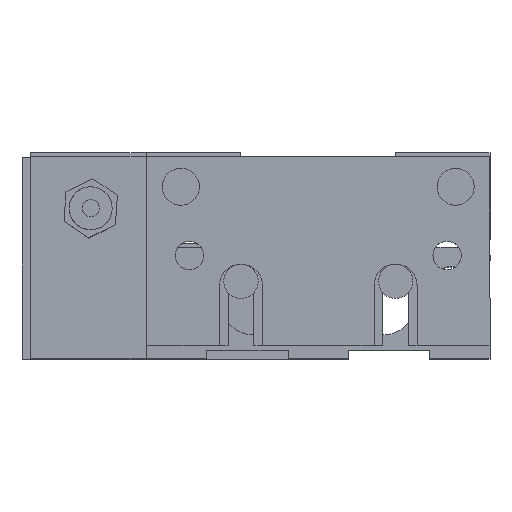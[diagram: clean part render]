
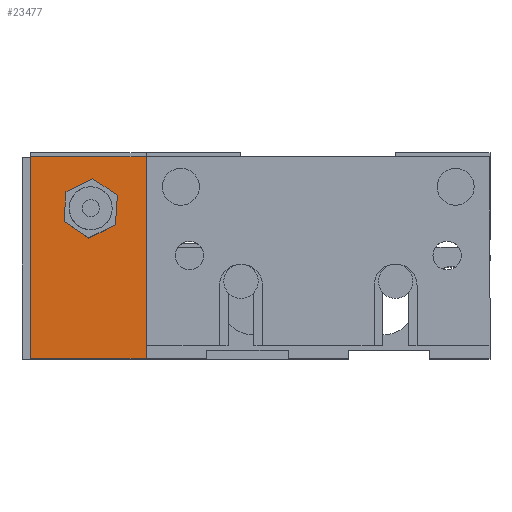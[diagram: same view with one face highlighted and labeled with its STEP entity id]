
A CAD part, top view. The second image highlights one B-rep face of the part: STEP entity #23477.
In plain terms, the highlighted planar face has unit normal (0, 0, 1).
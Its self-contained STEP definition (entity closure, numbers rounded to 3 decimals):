
#2975 = CARTESIAN_POINT ( 'NONE',  ( 0., 23.5, 7. ) ) ;
#16829 = LINE ( 'NONE', #16871, #17136 ) ;
#16871 = CARTESIAN_POINT ( 'NONE',  ( 0., 0., 7. ) ) ;
#17060 = DIRECTION ( 'NONE',  ( 1., 0., 0. ) ) ;
#17096 = CARTESIAN_POINT ( 'NONE',  ( 0., 0., 7. ) ) ;
#17098 = CARTESIAN_POINT ( 'NONE',  ( 14.5, 0., 7. ) ) ;
#17136 = VECTOR ( 'NONE', #17060, 1000. ) ;
#17218 = AXIS2_PLACEMENT_3D ( 'NONE', #17257, #17263, #17262 ) ;
#17240 = CIRCLE ( 'NONE', #17218, 2.5 ) ;
#17257 = CARTESIAN_POINT ( 'NONE',  ( 7., 17.5, 7. ) ) ;
#17262 = DIRECTION ( 'NONE',  ( -1., 0., 0. ) ) ;
#17263 = DIRECTION ( 'NONE',  ( 0., 0., -1. ) ) ;
#17337 = VECTOR ( 'NONE', #17367, 1000. ) ;
#17345 = CARTESIAN_POINT ( 'NONE',  ( 0., 0., 7. ) ) ;
#17351 = LINE ( 'NONE', #17345, #17337 ) ;
#17367 = DIRECTION ( 'NONE',  ( 0., -1., 0. ) ) ;
#17374 = VECTOR ( 'NONE', #17427, 1000. ) ;
#17377 = CARTESIAN_POINT ( 'NONE',  ( 14.5, 0., 7. ) ) ;
#17378 = LINE ( 'NONE', #17377, #17374 ) ;
#17383 = CARTESIAN_POINT ( 'NONE',  ( 14.5, 23.5, 7. ) ) ;
#17384 = DIRECTION ( 'NONE',  ( -1., 0., 0. ) ) ;
#17385 = CARTESIAN_POINT ( 'NONE',  ( 0., 23.5, 7. ) ) ;
#17390 = VECTOR ( 'NONE', #17384, 1000. ) ;
#17422 = LINE ( 'NONE', #17385, #17390 ) ;
#17427 = DIRECTION ( 'NONE',  ( 0., 1., 0. ) ) ;
#17428 = DIRECTION ( 'NONE',  ( 0., 0., -1. ) ) ;
#17429 = PLANE ( 'NONE',  #17447 ) ;
#17432 = CARTESIAN_POINT ( 'NONE',  ( 0., 23.5, 7. ) ) ;
#17433 = FACE_BOUND ( 'NONE', #23494, .T. ) ;
#17437 = DIRECTION ( 'NONE',  ( -1., 0., 0. ) ) ;
#17438 = FACE_OUTER_BOUND ( 'NONE', #23455, .T. ) ;
#17447 = AXIS2_PLACEMENT_3D ( 'NONE', #17432, #17428, #17437 ) ;
#18265 = CARTESIAN_POINT ( 'NONE',  ( 9.5, 17.5, 7. ) ) ;
#23406 = VERTEX_POINT ( 'NONE', #17098 ) ;
#23416 = VERTEX_POINT ( 'NONE', #17096 ) ;
#23431 = EDGE_CURVE ( 'NONE', #23416, #23406, #16829, .T. ) ;
#23436 = EDGE_CURVE ( 'NONE', #23979, #23416, #17351, .T. ) ;
#23448 = VERTEX_POINT ( 'NONE', #17383 ) ;
#23455 = EDGE_LOOP ( 'NONE', ( #23476, #23460, #23475, #23484 ) ) ;
#23459 = ORIENTED_EDGE ( 'NONE', *, *, #23474, .T. ) ;
#23460 = ORIENTED_EDGE ( 'NONE', *, *, #23431, .T. ) ;
#23464 = EDGE_CURVE ( 'NONE', #23406, #23448, #17378, .T. ) ;
#23471 = EDGE_CURVE ( 'NONE', #23448, #23979, #17422, .T. ) ;
#23474 = EDGE_CURVE ( 'NONE', #24128, #23931, #17240, .T. ) ;
#23475 = ORIENTED_EDGE ( 'NONE', *, *, #23464, .T. ) ;
#23476 = ORIENTED_EDGE ( 'NONE', *, *, #23436, .T. ) ;
#23477 = ADVANCED_FACE ( 'NONE', ( #17433, #17438 ), #17429, .F. ) ;
#23483 = ORIENTED_EDGE ( 'NONE', *, *, #24126, .T. ) ;
#23484 = ORIENTED_EDGE ( 'NONE', *, *, #23471, .T. ) ;
#23494 = EDGE_LOOP ( 'NONE', ( #23459, #23483 ) ) ;
#23931 = VERTEX_POINT ( 'NONE', #18265 ) ;
#23979 = VERTEX_POINT ( 'NONE', #2975 ) ;
#24126 = EDGE_CURVE ( 'NONE', #23931, #24128, #29840, .T. ) ;
#24128 = VERTEX_POINT ( 'NONE', #29758 ) ;
#29708 = AXIS2_PLACEMENT_3D ( 'NONE', #29849, #29847, #29846 ) ;
#29758 = CARTESIAN_POINT ( 'NONE',  ( 4.5, 17.5, 7. ) ) ;
#29840 = CIRCLE ( 'NONE', #29708, 2.5 ) ;
#29846 = DIRECTION ( 'NONE',  ( -1., 0., 0. ) ) ;
#29847 = DIRECTION ( 'NONE',  ( 0., 0., -1. ) ) ;
#29849 = CARTESIAN_POINT ( 'NONE',  ( 7., 17.5, 7. ) ) ;
